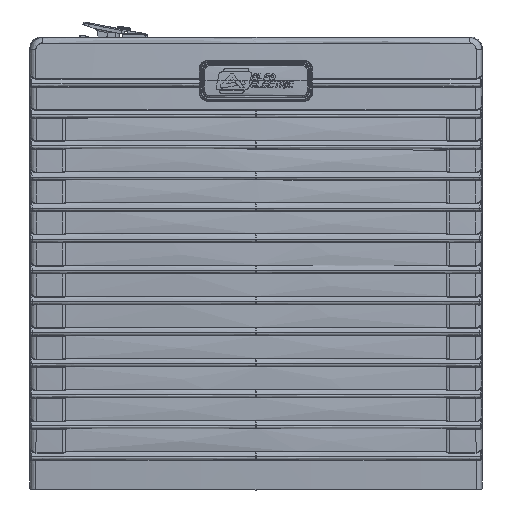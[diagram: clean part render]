
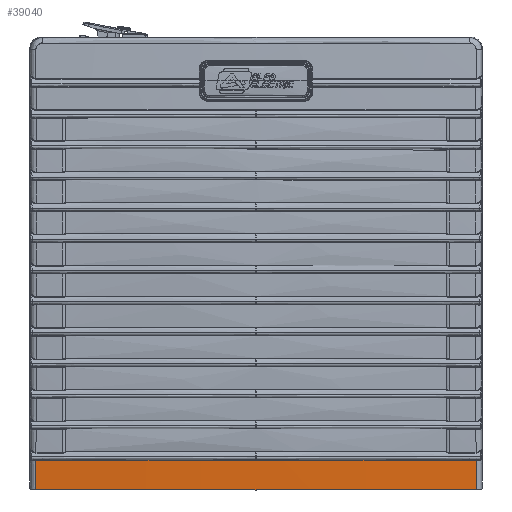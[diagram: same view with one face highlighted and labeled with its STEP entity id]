
A CAD part, front view. The second image highlights one B-rep face of the part: STEP entity #39040.
In plain terms, the highlighted free-form (B-spline) face has degree [2, 2] with [3, 5] control points.
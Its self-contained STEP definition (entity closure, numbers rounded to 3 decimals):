
#2816=(
BOUNDED_SURFACE()
B_SPLINE_SURFACE(2,2,((#297912,#297913,#297914,#297915,#297916),(#297917,
#297918,#297919,#297920,#297921),(#297922,#297923,#297924,#297925,#297926)),
 .UNSPECIFIED.,.F.,.F.,.F.)
B_SPLINE_SURFACE_WITH_KNOTS((3,3),(3,2,3),(4597.325,4640.99),
(3430.537,4712.389,5994.241),.UNSPECIFIED.)
GEOMETRIC_REPRESENTATION_ITEM()
RATIONAL_B_SPLINE_SURFACE(((0.831,0.818,0.973,
0.818,0.831),(0.836,0.822,
0.978,0.822,0.836),(0.84,
0.826,0.983,0.826,0.84)))
REPRESENTATION_ITEM('')
SURFACE()
);
#39040=ADVANCED_FACE('',(#43299),#2816,.T.);
#43299=FACE_OUTER_BOUND('',#47707,.T.);
#47707=EDGE_LOOP('',(#66853,#66854,#66855,#66856,#66857,#66858));
#66853=ORIENTED_EDGE('',*,*,#88015,.T.);
#66854=ORIENTED_EDGE('',*,*,#88016,.T.);
#66855=ORIENTED_EDGE('',*,*,#88017,.T.);
#66856=ORIENTED_EDGE('',*,*,#88018,.T.);
#66857=ORIENTED_EDGE('',*,*,#88019,.T.);
#66858=ORIENTED_EDGE('',*,*,#88020,.T.);
#88015=EDGE_CURVE('',#125969,#125970,#105940,.T.);
#88016=EDGE_CURVE('',#125970,#125971,#105941,.T.);
#88017=EDGE_CURVE('',#125971,#125972,#105942,.T.);
#88018=EDGE_CURVE('',#125972,#125973,#105943,.T.);
#88019=EDGE_CURVE('',#125973,#125974,#105944,.T.);
#88020=EDGE_CURVE('',#125974,#125969,#105945,.T.);
#105940=B_SPLINE_CURVE_WITH_KNOTS('',3,(#297933,#297934,#297935,#297936),
 .UNSPECIFIED.,.F.,.F.,(4,4),(0.,72.894),.UNSPECIFIED.);
#105941=B_SPLINE_CURVE_WITH_KNOTS('',3,(#297937,#297938,#297939,#297940),
 .UNSPECIFIED.,.F.,.F.,(4,4),(0.,72.894),.UNSPECIFIED.);
#105942=B_SPLINE_CURVE_WITH_KNOTS('',3,(#297941,#297942,#297943,#297944),
 .UNSPECIFIED.,.F.,.F.,(4,4),(0.,9.792),.UNSPECIFIED.);
#105943=B_SPLINE_CURVE_WITH_KNOTS('',3,(#297945,#297946,#297947,#297948),
 .UNSPECIFIED.,.F.,.F.,(4,4),(0.,72.91),.UNSPECIFIED.);
#105944=B_SPLINE_CURVE_WITH_KNOTS('',3,(#297949,#297950,#297951,#297952),
 .UNSPECIFIED.,.F.,.F.,(4,4),(0.,72.91),.UNSPECIFIED.);
#105945=B_SPLINE_CURVE_WITH_KNOTS('',3,(#297953,#297954,#297955,#297956),
 .UNSPECIFIED.,.F.,.F.,(4,4),(0.,9.792),.UNSPECIFIED.);
#125969=VERTEX_POINT('',#297927);
#125970=VERTEX_POINT('',#297928);
#125971=VERTEX_POINT('',#297929);
#125972=VERTEX_POINT('',#297930);
#125973=VERTEX_POINT('',#297931);
#125974=VERTEX_POINT('',#297932);
#297912=CARTESIAN_POINT('',(-54.086,-372.303,0.127));
#297913=CARTESIAN_POINT('',(-22.686,-372.303,-36.223));
#297914=CARTESIAN_POINT('',(25.349,-372.303,-36.223));
#297915=CARTESIAN_POINT('',(73.383,-372.303,-36.223));
#297916=CARTESIAN_POINT('',(104.784,-372.303,0.127));
#297917=CARTESIAN_POINT('',(-38.909,-373.71,13.238));
#297918=CARTESIAN_POINT('',(-13.508,-373.71,-16.167));
#297919=CARTESIAN_POINT('',(25.349,-373.71,-16.167));
#297920=CARTESIAN_POINT('',(64.206,-373.71,-16.167));
#297921=CARTESIAN_POINT('',(89.607,-373.71,13.238));
#297922=CARTESIAN_POINT('',(-23.709,-374.579,26.368));
#297923=CARTESIAN_POINT('',(-4.316,-374.579,3.919));
#297924=CARTESIAN_POINT('',(25.349,-374.579,3.919));
#297925=CARTESIAN_POINT('',(55.014,-374.579,3.919));
#297926=CARTESIAN_POINT('',(74.406,-374.579,26.368));
#297927=CARTESIAN_POINT('',(-47.509,-372.789,3.527));
#297928=CARTESIAN_POINT('',(25.349,-374.562,3.527));
#297929=CARTESIAN_POINT('',(98.207,-372.789,3.527));
#297930=CARTESIAN_POINT('',(98.223,-372.33,-6.254));
#297931=CARTESIAN_POINT('',(25.349,-374.104,-6.254));
#297932=CARTESIAN_POINT('',(-47.525,-372.33,-6.254));
#297933=CARTESIAN_POINT('',(-47.509,-372.789,3.527));
#297934=CARTESIAN_POINT('',(-23.23,-373.971,3.527));
#297935=CARTESIAN_POINT('',(1.041,-374.562,3.527));
#297936=CARTESIAN_POINT('',(25.349,-374.562,3.527));
#297937=CARTESIAN_POINT('',(25.349,-374.562,3.527));
#297938=CARTESIAN_POINT('',(49.656,-374.562,3.527));
#297939=CARTESIAN_POINT('',(73.928,-373.971,3.527));
#297940=CARTESIAN_POINT('',(98.207,-372.789,3.527));
#297941=CARTESIAN_POINT('',(98.207,-372.789,3.527));
#297942=CARTESIAN_POINT('',(98.211,-372.656,0.476));
#297943=CARTESIAN_POINT('',(98.217,-372.506,-2.766));
#297944=CARTESIAN_POINT('',(98.223,-372.33,-6.254));
#297945=CARTESIAN_POINT('',(98.223,-372.33,-6.254));
#297946=CARTESIAN_POINT('',(73.939,-373.513,-6.254));
#297947=CARTESIAN_POINT('',(49.662,-374.104,-6.254));
#297948=CARTESIAN_POINT('',(25.349,-374.104,-6.254));
#297949=CARTESIAN_POINT('',(25.349,-374.104,-6.254));
#297950=CARTESIAN_POINT('',(1.036,-374.104,-6.254));
#297951=CARTESIAN_POINT('',(-23.241,-373.513,-6.254));
#297952=CARTESIAN_POINT('',(-47.525,-372.33,-6.254));
#297953=CARTESIAN_POINT('',(-47.525,-372.33,-6.254));
#297954=CARTESIAN_POINT('',(-47.519,-372.506,-2.766));
#297955=CARTESIAN_POINT('',(-47.514,-372.656,0.476));
#297956=CARTESIAN_POINT('',(-47.509,-372.789,3.527));
